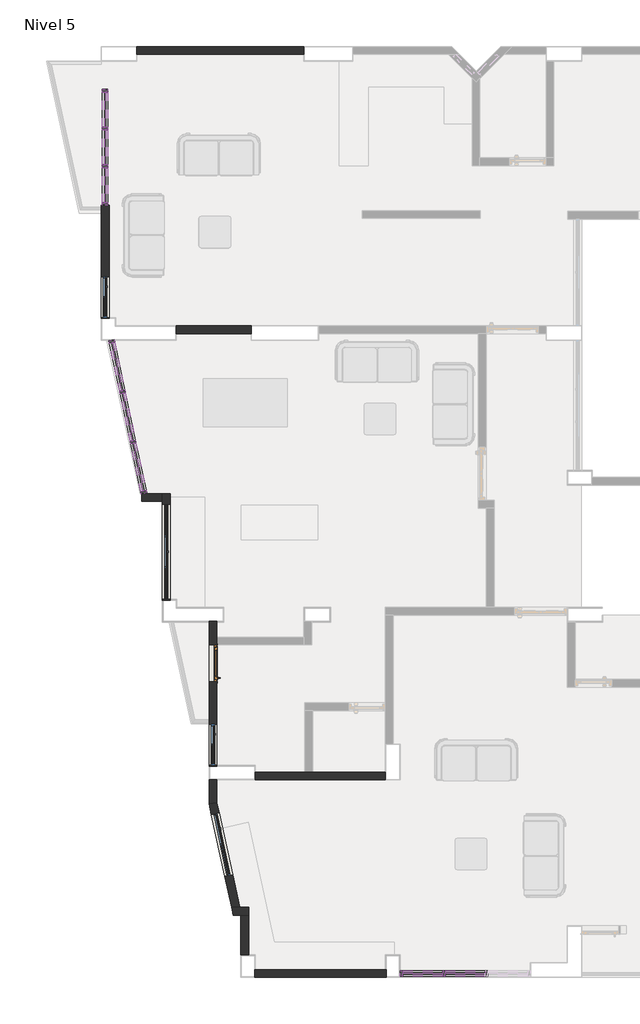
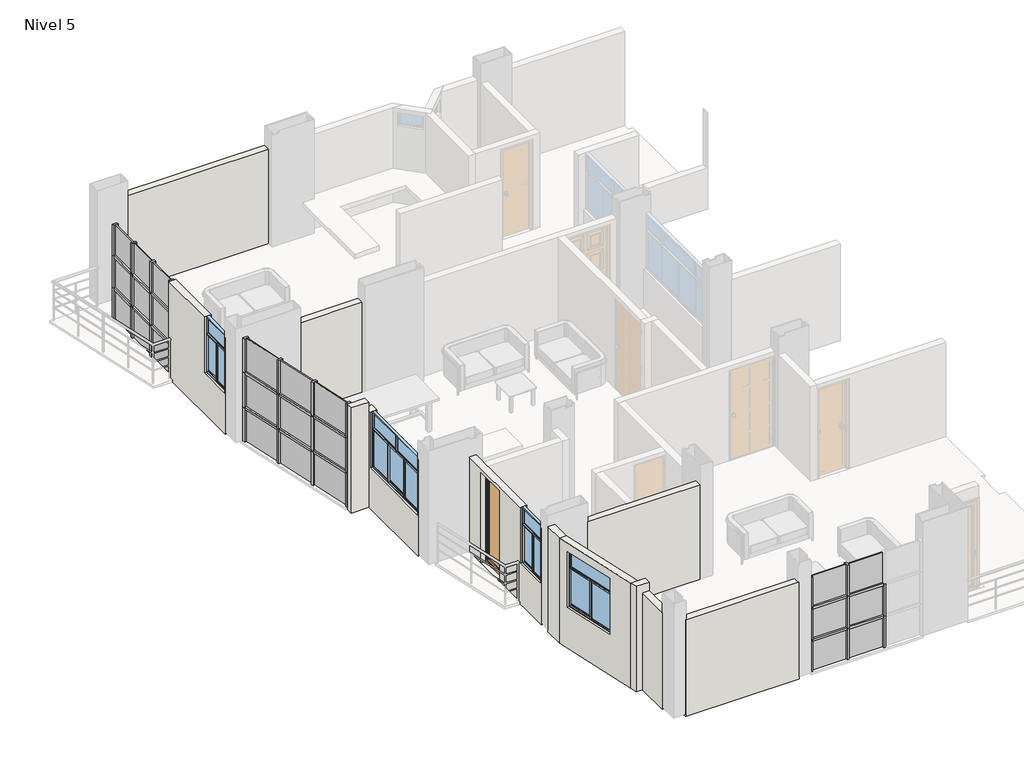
# One storey, part 1 of 4: 48 members, 24 plates, 12 walls, 4 windows, 1 door.
"""IFC4 building model written with IfcOpenShell, lengths in millimetres."""

from ifc_helpers import new_model, si_unit, origin, place, context, project, spatial, faceted_brep, transform, mapped, element, save
from components import p_0_70x2_10_m_3c21dbf0, montante_rectangular_montante_rectangular_5_x_10_cm_2b88942f, montante_rectangular_montante_rectangular_5_x_10_cm_f9611945, montante_rectangular_montante_rectangular_5_x_10_cm_a827199d, montante_rectangular_montante_rectangular_5_x_10_cm_acebee0b, montante_rectangular_montante_rectangular_5_x_10_cm_c9eb47b4, montante_rectangular_montante_rectangular_5_x_10_cm_4e511d2b, montante_rectangular_montante_rectangular_5_x_10_cm_c72d6881, montante_rectangular_montante_rectangular_5_x_10_cm_ab541107, montante_rectangular_montante_rectangular_5_x_10_cm_32aadb5f, montante_rectangular_montante_rectangular_5_x_10_cm_c93256ed, montante_rectangular_montante_rectangular_5_x_10_cm_31ab8c89, montante_rectangular_montante_rectangular_5_x_10_cm_de014126, montante_rectangular_montante_rectangular_5_x_10_cm_666b41a7, montante_rectangular_montante_rectangular_5_x_10_cm_5d764200, montante_rectangular_montante_rectangular_5_x_10_cm_b5b7adec, panel_de_sistema_acristalado_9899330d, panel_de_sistema_acristalado_c4d1b7ef, panel_de_sistema_acristalado_4c11c006, vb_0_78x1_30_94a928da, vb_1_20x1_30_m_50a12735, vb_1_81x1_30_m_b5e7ee37

model = new_model("IFC4")

# Units and contexts
model_context = context("Model", 3, world=origin())
ifc_project = project(units=[si_unit("LENGTHUNIT", "METRE", prefix="MILLI")], contexts=[model_context])

# Site, building, storey
site = spatial("IfcSite", under=ifc_project)
building = spatial("IfcBuilding", under=site)
storey = spatial("IfcBuildingStorey", under=building, Name="Nivel 5", Elevation=10750.0)

# Door
placement = place(None, origin())
p_0_70x2_10_m_shape = p_0_70x2_10_m_3c21dbf0(model_context)
element("IfcDoor", 1, ObjectType="Balconera practicable, 1 hoja : P 0.70x2.10 m", at=placement, inside=storey, context=model_context, shape_type="MappedRepresentation", body=[
    mapped(p_0_70x2_10_m_shape, transform((-540.0, 5950.3626818, 10750.0), x_axis=(0.0, 1.0, 0.0), y_axis=(-1.0, 0.0, 0.0), z_axis=(0.0, 0.0, 1.0))),
])

# Members
montante_rectangular_montante_rectangular_5_x_10_cm_shape = montante_rectangular_montante_rectangular_5_x_10_cm_2b88942f(model_context)
element("IfcMember", 2, ObjectType="Montante rectangular : Montante rectangular - 5 x 10 cm", at=placement, inside=storey, context=model_context, shape_type="MappedRepresentation", body=[
    mapped(montante_rectangular_montante_rectangular_5_x_10_cm_shape, transform((3846.6666668, 60.0, 10750.0), x_axis=(1.0, 0.0, 0.0), y_axis=(0.0, -1.0, 0.0), z_axis=(0.0, 0.0, -1.0))),
])
element("IfcMember", 3, ObjectType="Montante rectangular : Montante rectangular - 5 x 10 cm", at=placement, inside=storey, context=model_context, shape_type="MappedRepresentation", body=[
    mapped(montante_rectangular_montante_rectangular_5_x_10_cm_shape, transform((4653.3333332, 60.0, 10750.0), x_axis=(1.0, 0.0, 0.0), y_axis=(0.0, -1.0, 0.0), z_axis=(0.0, 0.0, -1.0))),
])
element("IfcMember", 4, ObjectType="Montante rectangular : Montante rectangular - 5 x 10 cm", at=placement, inside=storey, context=model_context, shape_type="MappedRepresentation", body=[
    mapped(montante_rectangular_montante_rectangular_5_x_10_cm_shape, transform((-2590.0, 15391.6666668, 10750.0), x_axis=(0.0, 1.0, 0.0), y_axis=(1.0, 0.0, 0.0), z_axis=(0.0, 0.0, -1.0))),
])
element("IfcMember", 5, ObjectType="Montante rectangular : Montante rectangular - 5 x 10 cm", at=placement, inside=storey, context=model_context, shape_type="MappedRepresentation", body=[
    mapped(montante_rectangular_montante_rectangular_5_x_10_cm_shape, transform((-2590.0, 16108.3333332, 10750.0), x_axis=(0.0, 1.0, 0.0), y_axis=(1.0, 0.0, 0.0), z_axis=(0.0, 0.0, -1.0))),
])
montante_rectangular_montante_rectangular_5_x_10_cm_2_shape = montante_rectangular_montante_rectangular_5_x_10_cm_f9611945(model_context)
element("IfcMember", 6, ObjectType="Montante rectangular : Montante rectangular - 5 x 10 cm", at=placement, inside=storey, context=model_context, shape_type="MappedRepresentation", body=[
    mapped(montante_rectangular_montante_rectangular_5_x_10_cm_2_shape, transform((3846.6666668, 60.0, 11475.0), x_axis=(1.0, 0.0, 0.0), y_axis=(0.0, -1.0, 0.0), z_axis=(0.0, 0.0, -1.0))),
])
element("IfcMember", 7, ObjectType="Montante rectangular : Montante rectangular - 5 x 10 cm", at=placement, inside=storey, context=model_context, shape_type="MappedRepresentation", body=[
    mapped(montante_rectangular_montante_rectangular_5_x_10_cm_2_shape, transform((4653.3333332, 60.0, 11475.0), x_axis=(1.0, 0.0, 0.0), y_axis=(0.0, -1.0, 0.0), z_axis=(0.0, 0.0, -1.0))),
])
element("IfcMember", 8, ObjectType="Montante rectangular : Montante rectangular - 5 x 10 cm", at=placement, inside=storey, context=model_context, shape_type="MappedRepresentation", body=[
    mapped(montante_rectangular_montante_rectangular_5_x_10_cm_2_shape, transform((-2590.0, 15391.6666668, 11475.0), x_axis=(0.0, 1.0, 0.0), y_axis=(1.0, 0.0, 0.0), z_axis=(0.0, 0.0, -1.0))),
])
element("IfcMember", 9, ObjectType="Montante rectangular : Montante rectangular - 5 x 10 cm", at=placement, inside=storey, context=model_context, shape_type="MappedRepresentation", body=[
    mapped(montante_rectangular_montante_rectangular_5_x_10_cm_2_shape, transform((-2590.0, 16108.3333332, 11475.0), x_axis=(0.0, 1.0, 0.0), y_axis=(1.0, 0.0, 0.0), z_axis=(0.0, 0.0, -1.0))),
])
element("IfcMember", 10, ObjectType="Montante rectangular : Montante rectangular - 5 x 10 cm", at=placement, inside=storey, context=model_context, shape_type="MappedRepresentation", body=[
    mapped(montante_rectangular_montante_rectangular_5_x_10_cm_shape, transform((3846.6666668, 60.0, 12225.0), x_axis=(1.0, 0.0, 0.0), y_axis=(0.0, -1.0, 0.0), z_axis=(0.0, 0.0, -1.0))),
])
element("IfcMember", 11, ObjectType="Montante rectangular : Montante rectangular - 5 x 10 cm", at=placement, inside=storey, context=model_context, shape_type="MappedRepresentation", body=[
    mapped(montante_rectangular_montante_rectangular_5_x_10_cm_shape, transform((-2590.0, 15391.6666668, 12225.0), x_axis=(0.0, 1.0, 0.0), y_axis=(1.0, 0.0, 0.0), z_axis=(0.0, 0.0, -1.0))),
])
element("IfcMember", 12, ObjectType="Montante rectangular : Montante rectangular - 5 x 10 cm", at=placement, inside=storey, context=model_context, shape_type="MappedRepresentation", body=[
    mapped(montante_rectangular_montante_rectangular_5_x_10_cm_shape, transform((-2590.0, 16108.3333332, 12225.0), x_axis=(0.0, 1.0, 0.0), y_axis=(1.0, 0.0, 0.0), z_axis=(0.0, 0.0, -1.0))),
])
montante_rectangular_montante_rectangular_5_x_10_cm_3_shape = montante_rectangular_montante_rectangular_5_x_10_cm_a827199d(model_context)
element("IfcMember", 13, ObjectType="Montante rectangular : Montante rectangular - 5 x 10 cm", at=placement, inside=storey, context=model_context, shape_type="MappedRepresentation", body=[
    mapped(montante_rectangular_montante_rectangular_5_x_10_cm_3_shape, transform((3015.0, 60.0, 12950.0), x_axis=(-1.0, 0.0, 0.0), y_axis=(0.0, -1.0, 0.0), z_axis=(0.0, 0.0, 1.0))),
])
element("IfcMember", 14, ObjectType="Montante rectangular : Montante rectangular - 5 x 10 cm", at=placement, inside=storey, context=model_context, shape_type="MappedRepresentation", body=[
    mapped(montante_rectangular_montante_rectangular_5_x_10_cm_3_shape, transform((-2590.0, 14650.0, 12950.0), x_axis=(0.0, -1.0, 0.0), y_axis=(1.0, 0.0, 0.0), z_axis=(0.0, 0.0, 1.0))),
])
element("IfcMember", 15, ObjectType="Montante rectangular : Montante rectangular - 5 x 10 cm", at=placement, inside=storey, context=model_context, shape_type="MappedRepresentation", body=[
    mapped(montante_rectangular_montante_rectangular_5_x_10_cm_3_shape, transform((3015.0, 60.0, 11475.0), x_axis=(-1.0, 0.0, 0.0), y_axis=(0.0, -1.0, 0.0), z_axis=(0.0, 0.0, 1.0))),
])
element("IfcMember", 16, ObjectType="Montante rectangular : Montante rectangular - 5 x 10 cm", at=placement, inside=storey, context=model_context, shape_type="MappedRepresentation", body=[
    mapped(montante_rectangular_montante_rectangular_5_x_10_cm_3_shape, transform((-2590.0, 14650.0, 11475.0), x_axis=(0.0, -1.0, 0.0), y_axis=(1.0, 0.0, 0.0), z_axis=(0.0, 0.0, 1.0))),
])
montante_rectangular_montante_rectangular_5_x_10_cm_4_shape = montante_rectangular_montante_rectangular_5_x_10_cm_acebee0b(model_context)
element("IfcMember", 17, ObjectType="Montante rectangular : Montante rectangular - 5 x 10 cm", at=placement, inside=storey, context=model_context, shape_type="MappedRepresentation", body=[
    mapped(montante_rectangular_montante_rectangular_5_x_10_cm_4_shape, transform((3015.0, 60.0, 12225.0), x_axis=(-1.0, 0.0, 0.0), y_axis=(0.0, -1.0, 0.0), z_axis=(0.0, 0.0, 1.0))),
])
element("IfcMember", 18, ObjectType="Montante rectangular : Montante rectangular - 5 x 10 cm", at=placement, inside=storey, context=model_context, shape_type="MappedRepresentation", body=[
    mapped(montante_rectangular_montante_rectangular_5_x_10_cm_4_shape, transform((-2590.0, 14650.0, 12225.0), x_axis=(0.0, -1.0, 0.0), y_axis=(1.0, 0.0, 0.0), z_axis=(0.0, 0.0, 1.0))),
])
montante_rectangular_montante_rectangular_5_x_10_cm_5_shape = montante_rectangular_montante_rectangular_5_x_10_cm_c9eb47b4(model_context)
element("IfcMember", 19, ObjectType="Montante rectangular : Montante rectangular - 5 x 10 cm", at=placement, inside=storey, context=model_context, shape_type="MappedRepresentation", body=[
    mapped(montante_rectangular_montante_rectangular_5_x_10_cm_5_shape, transform((-2590.0, 16850.0, 10750.0), x_axis=(0.0, 1.0, 0.0), y_axis=(1.0, 0.0, 0.0), z_axis=(0.0, 0.0, -1.0))),
])
montante_rectangular_montante_rectangular_5_x_10_cm_6_shape = montante_rectangular_montante_rectangular_5_x_10_cm_4e511d2b(model_context)
element("IfcMember", 20, ObjectType="Montante rectangular : Montante rectangular - 5 x 10 cm", at=placement, inside=storey, context=model_context, shape_type="MappedRepresentation", body=[
    mapped(montante_rectangular_montante_rectangular_5_x_10_cm_6_shape, transform((-2590.0, 16850.0, 11475.0), x_axis=(0.0, 1.0, 0.0), y_axis=(1.0, 0.0, 0.0), z_axis=(0.0, 0.0, -1.0))),
])
element("IfcMember", 21, ObjectType="Montante rectangular : Montante rectangular - 5 x 10 cm", at=placement, inside=storey, context=model_context, shape_type="MappedRepresentation", body=[
    mapped(montante_rectangular_montante_rectangular_5_x_10_cm_5_shape, transform((-2590.0, 16850.0, 12225.0), x_axis=(0.0, 1.0, 0.0), y_axis=(1.0, 0.0, 0.0), z_axis=(0.0, 0.0, -1.0))),
])
montante_rectangular_montante_rectangular_5_x_10_cm_7_shape = montante_rectangular_montante_rectangular_5_x_10_cm_c72d6881(model_context)
element("IfcMember", 22, ObjectType="Montante rectangular : Montante rectangular - 5 x 10 cm", at=placement, inside=storey, context=model_context, shape_type="MappedRepresentation", body=[
    mapped(montante_rectangular_montante_rectangular_5_x_10_cm_7_shape, transform((3821.6666668, 60.0, 11475.0), x_axis=(0.0, 0.0, 1.0), y_axis=(0.0, -1.0, 0.0), z_axis=(1.0, 0.0, 0.0))),
])
element("IfcMember", 23, ObjectType="Montante rectangular : Montante rectangular - 5 x 10 cm", at=placement, inside=storey, context=model_context, shape_type="MappedRepresentation", body=[
    mapped(montante_rectangular_montante_rectangular_5_x_10_cm_7_shape, transform((4628.3333332, 60.0, 11475.0), x_axis=(0.0, 0.0, 1.0), y_axis=(0.0, -1.0, 0.0), z_axis=(1.0, 0.0, 0.0))),
])
element("IfcMember", 24, ObjectType="Montante rectangular : Montante rectangular - 5 x 10 cm", at=placement, inside=storey, context=model_context, shape_type="MappedRepresentation", body=[
    mapped(montante_rectangular_montante_rectangular_5_x_10_cm_7_shape, transform((3821.6666668, 60.0, 12225.0), x_axis=(0.0, 0.0, 1.0), y_axis=(0.0, -1.0, 0.0), z_axis=(1.0, 0.0, 0.0))),
])
element("IfcMember", 25, ObjectType="Montante rectangular : Montante rectangular - 5 x 10 cm", at=placement, inside=storey, context=model_context, shape_type="MappedRepresentation", body=[
    mapped(montante_rectangular_montante_rectangular_5_x_10_cm_7_shape, transform((4628.3333332, 60.0, 12225.0), x_axis=(0.0, 0.0, 1.0), y_axis=(0.0, -1.0, 0.0), z_axis=(1.0, 0.0, 0.0))),
])
montante_rectangular_montante_rectangular_5_x_10_cm_8_shape = montante_rectangular_montante_rectangular_5_x_10_cm_ab541107(model_context)
element("IfcMember", 26, ObjectType="Montante rectangular : Montante rectangular - 5 x 10 cm", at=placement, inside=storey, context=model_context, shape_type="MappedRepresentation", body=[
    mapped(montante_rectangular_montante_rectangular_5_x_10_cm_8_shape, transform((-2052.6636087, 10129.1779887, 11541.6666667), x_axis=(0.0, 0.0, 1.0), y_axis=(0.9781476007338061, 0.20791169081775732, 0.0), z_axis=(-0.20791169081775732, 0.9781476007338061, 0.0))),
])
element("IfcMember", 27, ObjectType="Montante rectangular : Montante rectangular - 5 x 10 cm", at=placement, inside=storey, context=model_context, shape_type="MappedRepresentation", body=[
    mapped(montante_rectangular_montante_rectangular_5_x_10_cm_8_shape, transform((-2255.3272174, 11082.6353042, 11541.6666667), x_axis=(0.0, 0.0, 1.0), y_axis=(0.9781476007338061, 0.20791169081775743, 0.0), z_axis=(-0.2079116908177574, 0.978147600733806, 0.0))),
])
element("IfcMember", 28, ObjectType="Montante rectangular : Montante rectangular - 5 x 10 cm", at=placement, inside=storey, context=model_context, shape_type="MappedRepresentation", body=[
    mapped(montante_rectangular_montante_rectangular_5_x_10_cm_8_shape, transform((-2457.9908261, 12036.09262, 11541.6666667), x_axis=(0.0, 0.0, 1.0), y_axis=(0.978147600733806, 0.20791169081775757, 0.0), z_axis=(-0.20791169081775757, 0.978147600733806, 0.0))),
])
element("IfcMember", 29, ObjectType="Montante rectangular : Montante rectangular - 5 x 10 cm", at=placement, inside=storey, context=model_context, shape_type="MappedRepresentation", body=[
    mapped(montante_rectangular_montante_rectangular_5_x_10_cm_8_shape, transform((-2052.6636087, 10129.1779887, 12358.3333333), x_axis=(0.0, 0.0, 1.0), y_axis=(0.9781476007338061, 0.20791169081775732, 0.0), z_axis=(-0.20791169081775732, 0.9781476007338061, 0.0))),
])
element("IfcMember", 30, ObjectType="Montante rectangular : Montante rectangular - 5 x 10 cm", at=placement, inside=storey, context=model_context, shape_type="MappedRepresentation", body=[
    mapped(montante_rectangular_montante_rectangular_5_x_10_cm_8_shape, transform((-2255.3272174, 11082.6353042, 12358.3333333), x_axis=(0.0, 0.0, 1.0), y_axis=(0.9781476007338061, 0.20791169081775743, 0.0), z_axis=(-0.2079116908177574, 0.978147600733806, 0.0))),
])
element("IfcMember", 31, ObjectType="Montante rectangular : Montante rectangular - 5 x 10 cm", at=placement, inside=storey, context=model_context, shape_type="MappedRepresentation", body=[
    mapped(montante_rectangular_montante_rectangular_5_x_10_cm_8_shape, transform((-2457.9908261, 12036.09262, 12358.3333333), x_axis=(0.0, 0.0, 1.0), y_axis=(0.978147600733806, 0.20791169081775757, 0.0), z_axis=(-0.20791169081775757, 0.978147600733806, 0.0))),
])
montante_rectangular_montante_rectangular_5_x_10_cm_9_shape = montante_rectangular_montante_rectangular_5_x_10_cm_32aadb5f(model_context)
element("IfcMember", 32, ObjectType="Montante rectangular : Montante rectangular - 5 x 10 cm", at=placement, inside=storey, context=model_context, shape_type="MappedRepresentation", body=[
    mapped(montante_rectangular_montante_rectangular_5_x_10_cm_9_shape, transform((-2590.0, 15366.6666668, 11475.0), x_axis=(0.0, 0.0, 1.0), y_axis=(1.0, 0.0, 0.0), z_axis=(0.0, 1.0, 0.0))),
])
element("IfcMember", 33, ObjectType="Montante rectangular : Montante rectangular - 5 x 10 cm", at=placement, inside=storey, context=model_context, shape_type="MappedRepresentation", body=[
    mapped(montante_rectangular_montante_rectangular_5_x_10_cm_9_shape, transform((-2590.0, 16083.3333332, 11475.0), x_axis=(0.0, 0.0, 1.0), y_axis=(1.0, 0.0, 0.0), z_axis=(0.0, 1.0, 0.0))),
])
element("IfcMember", 34, ObjectType="Montante rectangular : Montante rectangular - 5 x 10 cm", at=placement, inside=storey, context=model_context, shape_type="MappedRepresentation", body=[
    mapped(montante_rectangular_montante_rectangular_5_x_10_cm_9_shape, transform((-2590.0, 16800.0, 11475.0), x_axis=(0.0, 0.0, 1.0), y_axis=(1.0, 0.0, 0.0), z_axis=(0.0, 1.0, 0.0))),
])
element("IfcMember", 35, ObjectType="Montante rectangular : Montante rectangular - 5 x 10 cm", at=placement, inside=storey, context=model_context, shape_type="MappedRepresentation", body=[
    mapped(montante_rectangular_montante_rectangular_5_x_10_cm_9_shape, transform((-2590.0, 15366.6666668, 12225.0), x_axis=(0.0, 0.0, 1.0), y_axis=(1.0, 0.0, 0.0), z_axis=(0.0, 1.0, 0.0))),
])
element("IfcMember", 36, ObjectType="Montante rectangular : Montante rectangular - 5 x 10 cm", at=placement, inside=storey, context=model_context, shape_type="MappedRepresentation", body=[
    mapped(montante_rectangular_montante_rectangular_5_x_10_cm_9_shape, transform((-2590.0, 16083.3333332, 12225.0), x_axis=(0.0, 0.0, 1.0), y_axis=(1.0, 0.0, 0.0), z_axis=(0.0, 1.0, 0.0))),
])
element("IfcMember", 37, ObjectType="Montante rectangular : Montante rectangular - 5 x 10 cm", at=placement, inside=storey, context=model_context, shape_type="MappedRepresentation", body=[
    mapped(montante_rectangular_montante_rectangular_5_x_10_cm_9_shape, transform((-2590.0, 16800.0, 12225.0), x_axis=(0.0, 0.0, 1.0), y_axis=(1.0, 0.0, 0.0), z_axis=(0.0, 1.0, 0.0))),
])
montante_rectangular_montante_rectangular_5_x_10_cm_10_shape = montante_rectangular_montante_rectangular_5_x_10_cm_c93256ed(model_context)
element("IfcMember", 38, ObjectType="Montante rectangular : Montante rectangular - 5 x 10 cm", at=placement, inside=storey, context=model_context, shape_type="MappedRepresentation", body=[
    mapped(montante_rectangular_montante_rectangular_5_x_10_cm_10_shape, transform((-2057.861401, 10153.6316788, 10750.0), x_axis=(-0.20791169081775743, 0.9781476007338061, 0.0), y_axis=(0.9781476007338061, 0.20791169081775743, 0.0), z_axis=(0.0, 0.0, -1.0))),
])
element("IfcMember", 39, ObjectType="Montante rectangular : Montante rectangular - 5 x 10 cm", at=placement, inside=storey, context=model_context, shape_type="MappedRepresentation", body=[
    mapped(montante_rectangular_montante_rectangular_5_x_10_cm_10_shape, transform((-2260.5250097, 11107.0889942, 10750.0), x_axis=(-0.20791169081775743, 0.9781476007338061, 0.0), y_axis=(0.9781476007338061, 0.20791169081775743, 0.0), z_axis=(0.0, 0.0, -1.0))),
])
montante_rectangular_montante_rectangular_5_x_10_cm_11_shape = montante_rectangular_montante_rectangular_5_x_10_cm_31ab8c89(model_context)
element("IfcMember", 40, ObjectType="Montante rectangular : Montante rectangular - 5 x 10 cm", at=placement, inside=storey, context=model_context, shape_type="MappedRepresentation", body=[
    mapped(montante_rectangular_montante_rectangular_5_x_10_cm_11_shape, transform((-2057.861401, 10153.6316788, 11541.6666667), x_axis=(-0.20791169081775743, 0.9781476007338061, 0.0), y_axis=(0.9781476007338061, 0.20791169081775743, 0.0), z_axis=(0.0, 0.0, -1.0))),
])
element("IfcMember", 41, ObjectType="Montante rectangular : Montante rectangular - 5 x 10 cm", at=placement, inside=storey, context=model_context, shape_type="MappedRepresentation", body=[
    mapped(montante_rectangular_montante_rectangular_5_x_10_cm_11_shape, transform((-2260.5250097, 11107.0889942, 11541.6666667), x_axis=(-0.20791169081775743, 0.9781476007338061, 0.0), y_axis=(0.9781476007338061, 0.20791169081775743, 0.0), z_axis=(0.0, 0.0, -1.0))),
])
element("IfcMember", 42, ObjectType="Montante rectangular : Montante rectangular - 5 x 10 cm", at=placement, inside=storey, context=model_context, shape_type="MappedRepresentation", body=[
    mapped(montante_rectangular_montante_rectangular_5_x_10_cm_10_shape, transform((-2057.861401, 10153.6316788, 12358.3333333), x_axis=(-0.20791169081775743, 0.9781476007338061, 0.0), y_axis=(0.9781476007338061, 0.20791169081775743, 0.0), z_axis=(0.0, 0.0, -1.0))),
])
element("IfcMember", 43, ObjectType="Montante rectangular : Montante rectangular - 5 x 10 cm", at=placement, inside=storey, context=model_context, shape_type="MappedRepresentation", body=[
    mapped(montante_rectangular_montante_rectangular_5_x_10_cm_10_shape, transform((-2260.5250097, 11107.0889942, 12358.3333333), x_axis=(-0.20791169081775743, 0.9781476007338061, 0.0), y_axis=(0.9781476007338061, 0.20791169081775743, 0.0), z_axis=(0.0, 0.0, -1.0))),
])
montante_rectangular_montante_rectangular_5_x_10_cm_12_shape = montante_rectangular_montante_rectangular_5_x_10_cm_de014126(model_context)
element("IfcMember", 44, ObjectType="Montante rectangular : Montante rectangular - 5 x 10 cm", at=placement, inside=storey, context=model_context, shape_type="MappedRepresentation", body=[
    mapped(montante_rectangular_montante_rectangular_5_x_10_cm_12_shape, transform((-2468.3864107, 12085.0, 10750.0), x_axis=(-0.20791169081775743, 0.9781476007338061, 0.0), y_axis=(0.9781476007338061, 0.20791169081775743, 0.0), z_axis=(0.0, 0.0, -1.0))),
])
montante_rectangular_montante_rectangular_5_x_10_cm_13_shape = montante_rectangular_montante_rectangular_5_x_10_cm_666b41a7(model_context)
element("IfcMember", 45, ObjectType="Montante rectangular : Montante rectangular - 5 x 10 cm", at=placement, inside=storey, context=model_context, shape_type="MappedRepresentation", body=[
    mapped(montante_rectangular_montante_rectangular_5_x_10_cm_13_shape, transform((-2468.3864107, 12085.0, 11541.6666667), x_axis=(-0.20791169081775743, 0.9781476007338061, 0.0), y_axis=(0.9781476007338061, 0.20791169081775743, 0.0), z_axis=(0.0, 0.0, -1.0))),
])
element("IfcMember", 46, ObjectType="Montante rectangular : Montante rectangular - 5 x 10 cm", at=placement, inside=storey, context=model_context, shape_type="MappedRepresentation", body=[
    mapped(montante_rectangular_montante_rectangular_5_x_10_cm_12_shape, transform((-2468.3864107, 12085.0, 12358.3333333), x_axis=(-0.20791169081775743, 0.9781476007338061, 0.0), y_axis=(0.9781476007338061, 0.20791169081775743, 0.0), z_axis=(0.0, 0.0, -1.0))),
])
montante_rectangular_montante_rectangular_5_x_10_cm_14_shape = montante_rectangular_montante_rectangular_5_x_10_cm_5d764200(model_context)
element("IfcMember", 47, ObjectType="Montante rectangular : Montante rectangular - 5 x 10 cm", at=placement, inside=storey, context=model_context, shape_type="MappedRepresentation", body=[
    mapped(montante_rectangular_montante_rectangular_5_x_10_cm_14_shape, transform((-1850.0, 9175.720673, 13150.0), x_axis=(0.20791169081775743, -0.9781476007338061, 0.0), y_axis=(0.9781476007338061, 0.20791169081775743, 0.0), z_axis=(0.0, 0.0, 1.0))),
])
element("IfcMember", 48, ObjectType="Montante rectangular : Montante rectangular - 5 x 10 cm", at=placement, inside=storey, context=model_context, shape_type="MappedRepresentation", body=[
    mapped(montante_rectangular_montante_rectangular_5_x_10_cm_14_shape, transform((-1850.0, 9175.720673, 11541.6666667), x_axis=(0.20791169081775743, -0.9781476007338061, 0.0), y_axis=(0.9781476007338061, 0.20791169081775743, 0.0), z_axis=(0.0, 0.0, 1.0))),
])
montante_rectangular_montante_rectangular_5_x_10_cm_15_shape = montante_rectangular_montante_rectangular_5_x_10_cm_b5b7adec(model_context)
element("IfcMember", 49, ObjectType="Montante rectangular : Montante rectangular - 5 x 10 cm", at=placement, inside=storey, context=model_context, shape_type="MappedRepresentation", body=[
    mapped(montante_rectangular_montante_rectangular_5_x_10_cm_15_shape, transform((-1850.0, 9175.720673, 12358.3333333), x_axis=(0.20791169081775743, -0.9781476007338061, 0.0), y_axis=(0.9781476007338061, 0.20791169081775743, 0.0), z_axis=(0.0, 0.0, 1.0))),
])

# Plates
panel_de_sistema_acristalado_shape = panel_de_sistema_acristalado_9899330d(model_context)
element("IfcPlate", 50, ObjectType="Panel de sistema : Acristalado", at=placement, inside=storey, context=model_context, shape_type="MappedRepresentation", body=[
    mapped(panel_de_sistema_acristalado_shape, transform((3443.3333334, 60.0, 10750.0), x_axis=(1.0, 0.0, 0.0), y_axis=(0.0, 1.0, 0.0), z_axis=(0.0, 0.0, 1.0))),
])
element("IfcPlate", 51, ObjectType="Panel de sistema : Acristalado", at=placement, inside=storey, context=model_context, shape_type="MappedRepresentation", body=[
    mapped(panel_de_sistema_acristalado_shape, transform((4250.0, 60.0, 10750.0), x_axis=(1.0, 0.0, 0.0), y_axis=(0.0, 1.0, 0.0), z_axis=(0.0, 0.0, 1.0))),
])
element("IfcPlate", 52, ObjectType="Panel de sistema : Acristalado", at=placement, inside=storey, context=model_context, shape_type="MappedRepresentation", body=[
    mapped(panel_de_sistema_acristalado_shape, transform((3443.3333334, 60.0, 11500.0), x_axis=(1.0, 0.0, 0.0), y_axis=(0.0, 1.0, 0.0), z_axis=(0.0, 0.0, 1.0))),
])
element("IfcPlate", 53, ObjectType="Panel de sistema : Acristalado", at=placement, inside=storey, context=model_context, shape_type="MappedRepresentation", body=[
    mapped(panel_de_sistema_acristalado_shape, transform((4250.0, 60.0, 11500.0), x_axis=(1.0, 0.0, 0.0), y_axis=(0.0, 1.0, 0.0), z_axis=(0.0, 0.0, 1.0))),
])
element("IfcPlate", 54, ObjectType="Panel de sistema : Acristalado", at=placement, inside=storey, context=model_context, shape_type="MappedRepresentation", body=[
    mapped(panel_de_sistema_acristalado_shape, transform((3443.3333334, 60.0, 12250.0), x_axis=(1.0, 0.0, 0.0), y_axis=(0.0, 1.0, 0.0), z_axis=(0.0, 0.0, 1.0))),
])
element("IfcPlate", 55, ObjectType="Panel de sistema : Acristalado", at=placement, inside=storey, context=model_context, shape_type="MappedRepresentation", body=[
    mapped(panel_de_sistema_acristalado_shape, transform((4250.0, 60.0, 12250.0), x_axis=(1.0, 0.0, 0.0), y_axis=(0.0, 1.0, 0.0), z_axis=(0.0, 0.0, 1.0))),
])
panel_de_sistema_acristalado_2_shape = panel_de_sistema_acristalado_c4d1b7ef(model_context)
element("IfcPlate", 56, ObjectType="Panel de sistema : Acristalado", at=placement, inside=storey, context=model_context, shape_type="MappedRepresentation", body=[
    mapped(panel_de_sistema_acristalado_2_shape, transform((-2590.0, 15033.3333334, 10750.0), x_axis=(0.0, 1.0, 0.0), y_axis=(-1.0, 0.0, 0.0), z_axis=(0.0, 0.0, 1.0))),
])
element("IfcPlate", 57, ObjectType="Panel de sistema : Acristalado", at=placement, inside=storey, context=model_context, shape_type="MappedRepresentation", body=[
    mapped(panel_de_sistema_acristalado_2_shape, transform((-2590.0, 15750.0, 10750.0), x_axis=(0.0, 1.0, 0.0), y_axis=(-1.0, 0.0, 0.0), z_axis=(0.0, 0.0, 1.0))),
])
element("IfcPlate", 58, ObjectType="Panel de sistema : Acristalado", at=placement, inside=storey, context=model_context, shape_type="MappedRepresentation", body=[
    mapped(panel_de_sistema_acristalado_2_shape, transform((-2590.0, 16466.6666666, 10750.0), x_axis=(0.0, 1.0, 0.0), y_axis=(-1.0, 0.0, 0.0), z_axis=(0.0, 0.0, 1.0))),
])
element("IfcPlate", 59, ObjectType="Panel de sistema : Acristalado", at=placement, inside=storey, context=model_context, shape_type="MappedRepresentation", body=[
    mapped(panel_de_sistema_acristalado_2_shape, transform((-2590.0, 15033.3333334, 11500.0), x_axis=(0.0, 1.0, 0.0), y_axis=(-1.0, 0.0, 0.0), z_axis=(0.0, 0.0, 1.0))),
])
element("IfcPlate", 60, ObjectType="Panel de sistema : Acristalado", at=placement, inside=storey, context=model_context, shape_type="MappedRepresentation", body=[
    mapped(panel_de_sistema_acristalado_2_shape, transform((-2590.0, 15750.0, 11500.0), x_axis=(0.0, 1.0, 0.0), y_axis=(-1.0, 0.0, 0.0), z_axis=(0.0, 0.0, 1.0))),
])
element("IfcPlate", 61, ObjectType="Panel de sistema : Acristalado", at=placement, inside=storey, context=model_context, shape_type="MappedRepresentation", body=[
    mapped(panel_de_sistema_acristalado_2_shape, transform((-2590.0, 16466.6666666, 11500.0), x_axis=(0.0, 1.0, 0.0), y_axis=(-1.0, 0.0, 0.0), z_axis=(0.0, 0.0, 1.0))),
])
element("IfcPlate", 62, ObjectType="Panel de sistema : Acristalado", at=placement, inside=storey, context=model_context, shape_type="MappedRepresentation", body=[
    mapped(panel_de_sistema_acristalado_2_shape, transform((-2590.0, 15033.3333334, 12250.0), x_axis=(0.0, 1.0, 0.0), y_axis=(-1.0, 0.0, 0.0), z_axis=(0.0, 0.0, 1.0))),
])
element("IfcPlate", 63, ObjectType="Panel de sistema : Acristalado", at=placement, inside=storey, context=model_context, shape_type="MappedRepresentation", body=[
    mapped(panel_de_sistema_acristalado_2_shape, transform((-2590.0, 15750.0, 12250.0), x_axis=(0.0, 1.0, 0.0), y_axis=(-1.0, 0.0, 0.0), z_axis=(0.0, 0.0, 1.0))),
])
element("IfcPlate", 64, ObjectType="Panel de sistema : Acristalado", at=placement, inside=storey, context=model_context, shape_type="MappedRepresentation", body=[
    mapped(panel_de_sistema_acristalado_2_shape, transform((-2590.0, 16466.6666666, 12250.0), x_axis=(0.0, 1.0, 0.0), y_axis=(-1.0, 0.0, 0.0), z_axis=(0.0, 0.0, 1.0))),
])
panel_de_sistema_acristalado_3_shape = panel_de_sistema_acristalado_4c11c006(model_context)
element("IfcPlate", 65, ObjectType="Panel de sistema : Acristalado", at=placement, inside=storey, context=model_context, shape_type="MappedRepresentation", body=[
    mapped(panel_de_sistema_acristalado_3_shape, transform((-1956.5295966, 9676.9030209, 10750.0), x_axis=(-0.20791169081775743, 0.9781476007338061, 0.0), y_axis=(-0.9781476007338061, -0.20791169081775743, 0.0), z_axis=(0.0, 0.0, 1.0))),
])
element("IfcPlate", 66, ObjectType="Panel de sistema : Acristalado", at=placement, inside=storey, context=model_context, shape_type="MappedRepresentation", body=[
    mapped(panel_de_sistema_acristalado_3_shape, transform((-2159.1932053, 10630.3603365, 10750.0), x_axis=(-0.20791169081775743, 0.9781476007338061, 0.0), y_axis=(-0.9781476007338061, -0.20791169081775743, 0.0), z_axis=(0.0, 0.0, 1.0))),
])
element("IfcPlate", 67, ObjectType="Panel de sistema : Acristalado", at=placement, inside=storey, context=model_context, shape_type="MappedRepresentation", body=[
    mapped(panel_de_sistema_acristalado_3_shape, transform((-2361.8568141, 11583.8176521, 10750.0), x_axis=(-0.20791169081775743, 0.9781476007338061, 0.0), y_axis=(-0.9781476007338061, -0.20791169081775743, 0.0), z_axis=(0.0, 0.0, 1.0))),
])
element("IfcPlate", 68, ObjectType="Panel de sistema : Acristalado", at=placement, inside=storey, context=model_context, shape_type="MappedRepresentation", body=[
    mapped(panel_de_sistema_acristalado_3_shape, transform((-1956.5295966, 9676.9030209, 11566.6666667), x_axis=(-0.20791169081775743, 0.9781476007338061, 0.0), y_axis=(-0.9781476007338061, -0.20791169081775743, 0.0), z_axis=(0.0, 0.0, 1.0))),
])
element("IfcPlate", 69, ObjectType="Panel de sistema : Acristalado", at=placement, inside=storey, context=model_context, shape_type="MappedRepresentation", body=[
    mapped(panel_de_sistema_acristalado_3_shape, transform((-2159.1932053, 10630.3603365, 11566.6666667), x_axis=(-0.20791169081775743, 0.9781476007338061, 0.0), y_axis=(-0.9781476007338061, -0.20791169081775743, 0.0), z_axis=(0.0, 0.0, 1.0))),
])
element("IfcPlate", 70, ObjectType="Panel de sistema : Acristalado", at=placement, inside=storey, context=model_context, shape_type="MappedRepresentation", body=[
    mapped(panel_de_sistema_acristalado_3_shape, transform((-2361.8568141, 11583.8176521, 11566.6666667), x_axis=(-0.20791169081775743, 0.9781476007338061, 0.0), y_axis=(-0.9781476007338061, -0.20791169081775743, 0.0), z_axis=(0.0, 0.0, 1.0))),
])
element("IfcPlate", 71, ObjectType="Panel de sistema : Acristalado", at=placement, inside=storey, context=model_context, shape_type="MappedRepresentation", body=[
    mapped(panel_de_sistema_acristalado_3_shape, transform((-1956.5295966, 9676.9030209, 12383.3333333), x_axis=(-0.20791169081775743, 0.9781476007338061, 0.0), y_axis=(-0.9781476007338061, -0.20791169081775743, 0.0), z_axis=(0.0, 0.0, 1.0))),
])
element("IfcPlate", 72, ObjectType="Panel de sistema : Acristalado", at=placement, inside=storey, context=model_context, shape_type="MappedRepresentation", body=[
    mapped(panel_de_sistema_acristalado_3_shape, transform((-2159.1932053, 10630.3603365, 12383.3333333), x_axis=(-0.20791169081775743, 0.9781476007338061, 0.0), y_axis=(-0.9781476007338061, -0.20791169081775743, 0.0), z_axis=(0.0, 0.0, 1.0))),
])
element("IfcPlate", 73, ObjectType="Panel de sistema : Acristalado", at=placement, inside=storey, context=model_context, shape_type="MappedRepresentation", body=[
    mapped(panel_de_sistema_acristalado_3_shape, transform((-2361.8568141, 11583.8176521, 12383.3333333), x_axis=(-0.20791169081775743, 0.9781476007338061, 0.0), y_axis=(-0.9781476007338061, -0.20791169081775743, 0.0), z_axis=(0.0, 0.0, 1.0))),
])

# Walls
element("IfcWall", 74, ObjectType="AMS_Muro Interior-Exterior, e=15 cm", at=placement, inside=storey, context=model_context, shape_type="Brep", body=[
    faceted_brep([(-1985.0, 17515.0, 10700.0), (1185.0, 17515.0, 10700.0), (1185.0, 17515.0, 12950.0), (-1985.0, 17515.0, 12950.0), (-1985.0, 17665.0, 10700.0), (-1985.0, 17665.0, 10750.0), (-1985.0, 17665.0, 12950.0), (1185.0, 17665.0, 12950.0), (1185.0, 17665.0, 10750.0), (1185.0, 17665.0, 10700.0)], [[[0, 1, 2, 3]], [[4, 5, 6, 7, 8, 9]], [[1, 0, 4, 9]], [[2, 1, 9, 8, 7]], [[3, 2, 7, 6]], [[0, 3, 6, 5, 4]]]),
])
element("IfcWall", 75, ObjectType="AMS_Muro Interior-Interior, e=15 cm", at=placement, inside=storey, context=model_context, shape_type="Brep", body=[
    faceted_brep([(-1235.0, 12215.0, 10700.0), (185.0, 12215.0, 10700.0), (185.0, 12215.0, 12950.0), (-1235.0, 12215.0, 12950.0), (-1235.0, 12365.0, 10700.0), (-1235.0, 12365.0, 10750.0), (-1235.0, 12365.0, 12950.0), (185.0, 12365.0, 12950.0), (185.0, 12365.0, 10750.0), (185.0, 12365.0, 10700.0)], [[[0, 1, 2, 3]], [[4, 5, 6, 7, 8, 9]], [[1, 0, 4, 9]], [[2, 1, 9, 8, 7]], [[3, 2, 7, 6]], [[0, 3, 6, 5, 4]]]),
])
element("IfcWall", 76, ObjectType="AMS_Muro Interior-Exterior, e=15 cm", at=placement, inside=storey, context=model_context, shape_type="Brep", body=[
    faceted_brep([(-2515.0, 12515.0, 11650.0), (-2515.0, 12515.0, 12950.0), (-2515.0, 12500.0, 12950.0), (-2515.0, 12500.0, 10750.0), (-2515.0, 12500.0, 10700.0), (-2515.0, 12515.0, 10700.0), (-2515.0, 14650.0, 10700.0), (-2515.0, 14650.0, 12950.0), (-2515.0, 13295.0, 12950.0), (-2515.0, 13295.0, 11650.0), (-2665.0, 12500.0, 12950.0), (-2665.0, 12515.0, 12950.0), (-2665.0, 12515.0, 11650.0), (-2665.0, 13295.0, 11650.0), (-2665.0, 13295.0, 12950.0), (-2665.0, 14650.0, 12950.0), (-2665.0, 14650.0, 10700.0), (-2665.0, 12515.0, 10700.0), (-2665.0, 12500.0, 10700.0), (-2665.0, 12500.0, 10750.0), (-2650.0, 12500.0, 10700.0), (-2650.0, 12500.0, 12950.0)], [[[0, 1, 2, 3, 4, 5, 6, 7, 8, 9]], [[10, 11, 12, 13, 14, 15, 16, 17, 18, 19]], [[6, 5, 4, 20, 18, 17, 16]], [[7, 6, 16, 15]], [[8, 7, 15, 14]], [[2, 1, 11, 10, 21]], [[4, 3, 2, 21, 10, 19, 18, 20]], [[14, 13, 9, 8]], [[12, 11, 1, 0]], [[13, 12, 0, 9]]]),
])
element("IfcWall", 77, ObjectType="AMS_Muro Interior-Interior, e=15 cm", at=placement, inside=storey, context=model_context, shape_type="Brep", body=[
    faceted_brep([(2735.0, 3885.0, 10700.0), (1350.0, 3885.0, 10700.0), (1200.0, 3885.0, 10700.0), (265.0, 3885.0, 10700.0), (265.0, 3885.0, 12950.0), (1200.0, 3885.0, 12950.0), (1350.0, 3885.0, 12950.0), (2735.0, 3885.0, 12950.0), (2735.0, 3735.0, 10700.0), (2735.0, 3735.0, 10750.0), (2735.0, 3735.0, 12950.0), (265.0, 3735.0, 12950.0), (265.0, 3735.0, 10750.0), (265.0, 3735.0, 10700.0)], [[[0, 1, 2, 3, 4, 5, 6, 7]], [[8, 9, 10, 11, 12, 13]], [[3, 2, 1, 0, 8, 13]], [[4, 3, 13, 12, 11]], [[7, 6, 5, 4, 11, 10]], [[0, 7, 10, 9, 8]]]),
])
element("IfcWall", 78, ObjectType="AMS_Muro Interior-Exterior, e=15 cm", at=placement, inside=storey, context=model_context, shape_type="Brep", body=[
    faceted_brep([(-465.0, 4015.0, 11650.0), (-465.0, 4015.0, 12950.0), (-465.0, 4000.0, 12950.0), (-465.0, 4000.0, 10750.0), (-465.0, 4000.0, 10700.0), (-465.0, 4015.0, 10700.0), (-465.0, 6300.3626818, 10700.0), (-465.0, 6450.3626818, 10700.0), (-465.0, 6735.0, 10700.0), (-465.0, 6750.0, 10700.0), (-465.0, 6750.0, 10750.0), (-465.0, 6750.0, 12950.0), (-465.0, 6735.0, 12950.0), (-465.0, 6450.3626818, 12950.0), (-465.0, 6300.3626818, 12950.0), (-465.0, 4795.0, 12950.0), (-465.0, 4795.0, 11650.0), (-465.0, 6300.3626818, 10750.0), (-465.0, 5600.3626818, 10750.0), (-465.0, 5600.3626818, 12850.0), (-465.0, 6300.3626818, 12850.0), (-615.0, 4000.0, 12950.0), (-615.0, 4015.0, 12950.0), (-615.0, 4015.0, 11650.0), (-615.0, 4795.0, 11650.0), (-615.0, 4795.0, 12950.0), (-615.0, 6735.0, 12950.0), (-615.0, 6750.0, 12950.0), (-615.0, 6750.0, 10750.0), (-615.0, 6750.0, 10700.0), (-615.0, 6735.0, 10700.0), (-615.0, 4015.0, 10700.0), (-615.0, 4000.0, 10700.0), (-615.0, 4000.0, 10750.0), (-615.0, 6300.3626818, 10750.0), (-615.0, 6300.3626818, 12850.0), (-615.0, 5600.3626818, 12850.0), (-615.0, 5600.3626818, 10750.0), (-600.0, 4000.0, 10700.0), (-600.0, 4000.0, 12950.0)], [[[0, 1, 2, 3, 4, 5, 6, 7, 8, 9, 10, 11, 12, 13, 14, 15, 16], [17, 18, 19, 20]], [[21, 22, 23, 24, 25, 26, 27, 28, 29, 30, 31, 32, 33], [34, 35, 36, 37]], [[9, 8, 7, 6, 5, 4, 38, 32, 31, 30, 29]], [[11, 10, 9, 29, 28, 27]], [[2, 1, 22, 21, 39]], [[15, 14, 13, 12, 11, 27, 26, 25]], [[4, 3, 2, 39, 21, 33, 32, 38]], [[25, 24, 16, 15]], [[23, 22, 1, 0]], [[24, 23, 0, 16]], [[35, 34, 17, 20]], [[36, 35, 20, 19]], [[37, 36, 19, 18]], [[34, 37, 18, 17]]]),
])
element("IfcWall", 79, ObjectType="AMS_Muro Interior-Exterior, e=15 cm", at=placement, inside=storey, context=model_context, shape_type="Brep", body=[
    faceted_brep([(-1355.0, 7165.0, 11650.0), (-1355.0, 7165.0, 12950.0), (-1355.0, 7150.0, 12950.0), (-1355.0, 7150.0, 10750.0), (-1355.0, 7150.0, 10700.0), (-1355.0, 7165.0, 10700.0), (-1355.0, 9175.720673, 10700.0), (-1355.0, 9175.720673, 12950.0), (-1355.0, 8975.0, 12950.0), (-1355.0, 8975.0, 11650.0), (-1505.0, 7150.0, 12950.0), (-1505.0, 7165.0, 12950.0), (-1505.0, 7165.0, 11650.0), (-1505.0, 8975.0, 11650.0), (-1505.0, 8975.0, 12950.0), (-1505.0, 9175.720673, 12950.0), (-1505.0, 9175.720673, 10700.0), (-1505.0, 9025.720673, 10700.0), (-1505.0, 7165.0, 10700.0), (-1505.0, 7150.0, 10700.0), (-1505.0, 7150.0, 10750.0), (-1490.0, 7150.0, 10700.0), (-1490.0, 7150.0, 12950.0)], [[[0, 1, 2, 3, 4, 5, 6, 7, 8, 9]], [[10, 11, 12, 13, 14, 15, 16, 17, 18, 19, 20]], [[6, 5, 4, 21, 19, 18, 17, 16]], [[8, 7, 15, 14]], [[2, 1, 11, 10, 22]], [[4, 3, 2, 22, 10, 20, 19, 21]], [[7, 6, 16, 15]], [[14, 13, 9, 8]], [[12, 11, 1, 0]], [[13, 12, 0, 9]]]),
])
element("IfcWall", 80, ObjectType="AMS_Muro Interior-Exterior, e=15 cm", at=placement, inside=storey, context=model_context, shape_type="Brep", body=[
    faceted_brep([(-1505.0, 9175.720673, 10700.0), (-1890.0, 9175.720673, 10700.0), (-1890.0, 9175.720673, 13150.0), (-1505.0, 9175.720673, 13150.0), (-1505.0, 9175.720673, 12950.0), (-1505.0, 9025.720673, 10700.0), (-1505.0, 9025.720673, 13150.0), (-1890.0, 9025.720673, 13150.0), (-1890.0, 9025.720673, 10700.0)], [[[0, 1, 2, 3, 4]], [[5, 6, 7, 8]], [[1, 0, 5, 8]], [[2, 1, 8, 7]], [[3, 2, 7, 6]], [[0, 4, 3, 6, 5]]]),
])
element("IfcWall", 81, ObjectType="AMS_Muro Interior-Exterior, e=15 cm", at=placement, inside=storey, context=model_context, shape_type="Brep", body=[
    faceted_brep([(135.0, 415.0, 10700.0), (135.0, 1170.0, 10700.0), (135.0, 1170.0, 12950.0), (135.0, 415.0, 12950.0), (-15.0, 415.0, 10700.0), (-15.0, 415.0, 10750.0), (-15.0, 415.0, 12950.0), (-15.0, 1170.0, 12950.0), (-15.0, 1170.0, 10700.0)], [[[0, 1, 2, 3]], [[4, 5, 6, 7, 8]], [[1, 0, 4, 8]], [[3, 2, 7, 6]], [[0, 3, 6, 5, 4]], [[2, 1, 8, 7]]]),
])
element("IfcWall", 82, ObjectType="AMS_Muro Interior-Exterior, e=15 cm", at=placement, inside=storey, context=model_context, shape_type="Brep", body=[
    faceted_brep([(135.0, 1320.0, 10700.0), (-35.0804526, 1320.0, 10700.0), (-188.5653574, 1320.0, 10700.0), (-188.5653574, 1320.0, 13150.0), (-35.0804526, 1320.0, 13150.0), (135.0, 1320.0, 13150.0), (135.0, 1170.0, 10700.0), (135.0, 1170.0, 12950.0), (135.0, 1170.0, 13150.0), (-156.044349, 1170.0, 13150.0), (-156.044349, 1170.0, 10700.0), (-15.0, 1170.0, 10700.0)], [[[0, 1, 2, 3, 4, 5]], [[6, 7, 8, 9, 10, 11]], [[2, 1, 0, 6, 11, 10]], [[5, 4, 3, 9, 8]], [[0, 5, 8, 7, 6]], [[3, 2, 10, 9]]]),
])
element("IfcWall", 83, ObjectType="AMS_Muro Interior-Exterior, e=15 cm", at=placement, inside=storey, context=model_context, shape_type="Brep", body=[
    faceted_brep([(-35.0804526, 1320.0, 10700.0), (-465.0, 3302.9622535, 10700.0), (-465.0, 3302.9622535, 13150.0), (-35.0804526, 1320.0, 13150.0), (-423.1760822, 3110.0534854, 11650.0), (-168.9151818, 1937.2997199, 11650.0), (-168.9151818, 1937.2997199, 12950.0), (-423.1760822, 3110.0534854, 12950.0), (-188.5653574, 1320.0, 10700.0), (-188.5653574, 1320.0, 13150.0), (-615.0, 3286.888468, 13150.0), (-615.0, 3286.888468, 10700.0), (-569.7703029, 3078.2708729, 11650.0), (-569.7703029, 3078.2708729, 12950.0), (-315.5094025, 1905.5171074, 12950.0), (-315.5094025, 1905.5171074, 11650.0)], [[[0, 1, 2, 3], [4, 5, 6, 7]], [[8, 9, 10, 11], [12, 13, 14, 15]], [[1, 0, 8, 11]], [[3, 2, 10, 9]], [[0, 3, 9, 8]], [[2, 1, 11, 10]], [[13, 12, 4, 7]], [[14, 13, 7, 6]], [[15, 14, 6, 5]], [[12, 15, 5, 4]]]),
])
element("IfcWall", 84, ObjectType="AMS_Muro Interior-Exterior, e=15 cm", at=placement, inside=storey, context=model_context, shape_type="Brep", body=[
    faceted_brep([(-615.0, 3735.0, 10700.0), (-615.0, 3286.888468, 10700.0), (-615.0, 3286.888468, 13150.0), (-615.0, 3735.0, 13150.0), (-615.0, 3735.0, 10750.0), (-465.0, 3735.0, 10700.0), (-465.0, 3735.0, 13150.0), (-465.0, 3302.9622535, 13150.0), (-465.0, 3302.9622535, 10700.0)], [[[0, 1, 2, 3, 4]], [[5, 6, 7, 8]], [[1, 0, 5, 8]], [[3, 2, 7, 6]], [[0, 4, 3, 6, 5]], [[2, 1, 8, 7]]]),
])
element("IfcWall", 85, ObjectType="AMS_Muro Interior-Exterior, e=15 cm", at=placement, inside=storey, context=model_context, shape_type="Brep", body=[
    faceted_brep([(2750.0, 135.0, 10700.0), (2735.0, 135.0, 10700.0), (265.0, 135.0, 10700.0), (250.0, 135.0, 10700.0), (250.0, 135.0, 10750.0), (250.0, 135.0, 12950.0), (265.0, 135.0, 12950.0), (2735.0, 135.0, 12950.0), (2750.0, 135.0, 12950.0), (2750.0, 135.0, 10750.0), (2750.0, -15.0, 10700.0), (2750.0, -15.0, 10750.0), (2750.0, -15.0, 12950.0), (2735.0, -15.0, 12950.0), (265.0, -15.0, 12950.0), (250.0, -15.0, 12950.0), (250.0, -15.0, 10750.0), (250.0, -15.0, 10700.0), (265.0, -15.0, 10700.0), (2735.0, -15.0, 10700.0), (2750.0, 0.0, 10700.0), (250.0, 0.0, 10700.0), (250.0, 0.0, 12950.0), (2750.0, 0.0, 12950.0)], [[[0, 1, 2, 3, 4, 5, 6, 7, 8, 9]], [[10, 11, 12, 13, 14, 15, 16, 17, 18, 19]], [[3, 2, 1, 0, 20, 10, 19, 18, 17, 21]], [[5, 4, 3, 21, 17, 16, 15, 22]], [[8, 7, 6, 5, 22, 15, 14, 13, 12, 23]], [[0, 9, 8, 23, 12, 11, 10, 20]]]),
])

# Windows
vb_0_78x1_30_shape = vb_0_78x1_30_94a928da(model_context)
element("IfcWindow", 86, ObjectType="Ventana baja corrediza 2 cuerpos : VB 0.78X1.30", at=placement, inside=storey, context=model_context, shape_type="MappedRepresentation", body=[
    mapped(vb_0_78x1_30_shape, transform((-540.0, 4405.0, 10750.0), x_axis=(0.0, -1.0, 0.0), y_axis=(1.0, 0.0, 0.0), z_axis=(0.0, 0.0, 1.0))),
])
element("IfcWindow", 87, ObjectType="Ventana baja corrediza 2 cuerpos : VB 0.95X1.30", at=placement, inside=storey, context=model_context, shape_type="MappedRepresentation", body=[
    mapped(vb_0_78x1_30_shape, transform((-2590.0, 12905.0, 10750.0), x_axis=(0.0, -1.0, 0.0), y_axis=(1.0, 0.0, 0.0), z_axis=(0.0, 0.0, 1.0))),
])
vb_1_20x1_30_m_shape = vb_1_20x1_30_m_50a12735(model_context)
element("IfcWindow", 88, ObjectType="Ventana baja corrediza 2 cuerpos : VB 1.20X1.30 m", at=placement, inside=storey, context=model_context, shape_type="MappedRepresentation", body=[
    mapped(vb_1_20x1_30_m_shape, transform((-369.3427424, 2507.7852964, 10750.0), x_axis=(0.21188408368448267, -0.9772948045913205, 0.0), y_axis=(0.9772948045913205, 0.21188408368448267, 0.0), z_axis=(0.0, 0.0, 1.0))),
])
vb_1_81x1_30_m_shape = vb_1_81x1_30_m_b5e7ee37(model_context)
element("IfcWindow", 89, ObjectType="Ventana baja corrediza 3 cuerpos : VB 1.81x1.30 m", at=placement, inside=storey, context=model_context, shape_type="MappedRepresentation", body=[
    mapped(vb_1_81x1_30_m_shape, transform((-1430.0, 8070.0, 10750.0), x_axis=(0.0, -1.0, 0.0), y_axis=(1.0, 0.0, 0.0), z_axis=(0.0, 0.0, 1.0))),
])

save(model, "model.ifc")
